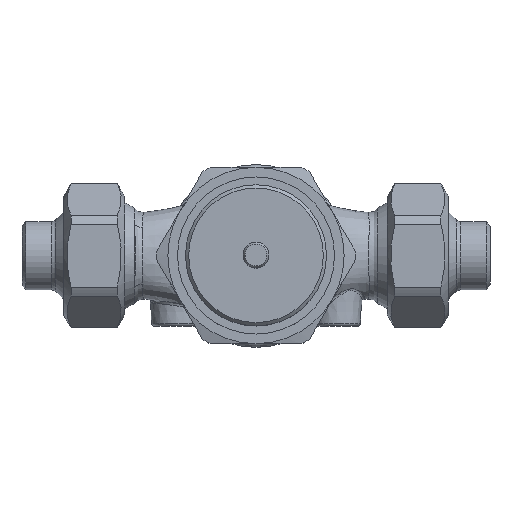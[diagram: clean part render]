
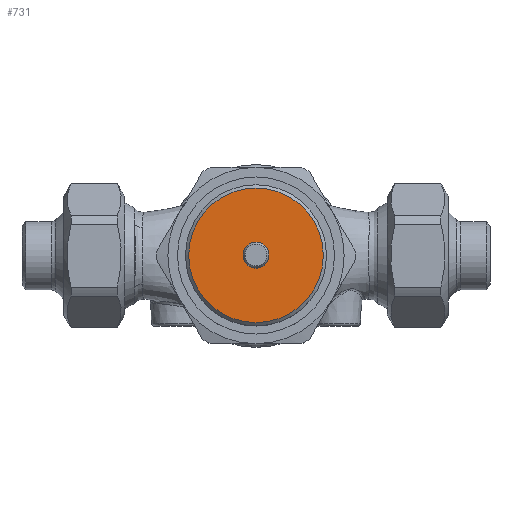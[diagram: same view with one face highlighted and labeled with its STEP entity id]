
A CAD part, top view. The second image highlights one B-rep face of the part: STEP entity #731.
In plain terms, the highlighted planar face has unit normal (0, 0, 1).
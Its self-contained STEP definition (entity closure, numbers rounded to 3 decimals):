
#419=PLANE('',#2838);
#536=FACE_BOUND('',#1103,.T.);
#537=FACE_BOUND('',#1104,.T.);
#731=ADVANCED_FACE('',(#536,#537),#419,.F.);
#1103=EDGE_LOOP('',(#1721));
#1104=EDGE_LOOP('',(#1722));
#1323=CIRCLE('',#2836,4.);
#1324=CIRCLE('',#2837,21.);
#1721=ORIENTED_EDGE('',*,*,#2431,.F.);
#1722=ORIENTED_EDGE('',*,*,#2432,.T.);
#2155=VERTEX_POINT('',#10088);
#2156=VERTEX_POINT('',#10090);
#2431=EDGE_CURVE('',#2155,#2155,#1323,.T.);
#2432=EDGE_CURVE('',#2156,#2156,#1324,.T.);
#2836=AXIS2_PLACEMENT_3D('',#10087,#3319,#3320);
#2837=AXIS2_PLACEMENT_3D('',#10089,#3321,#3322);
#2838=AXIS2_PLACEMENT_3D('',#10091,#3323,#3324);
#3319=DIRECTION('',(0.,0.,1.));
#3320=DIRECTION('',(-1.,0.,0.));
#3321=DIRECTION('',(0.,0.,1.));
#3322=DIRECTION('',(-1.,0.,0.));
#3323=DIRECTION('',(0.,0.,-1.));
#3324=DIRECTION('',(-1.,0.,0.));
#10087=CARTESIAN_POINT('',(0.,0.,80.6));
#10088=CARTESIAN_POINT('',(-4.,0.,80.6));
#10089=CARTESIAN_POINT('',(0.,0.,80.6));
#10090=CARTESIAN_POINT('',(-21.,0.,80.6));
#10091=CARTESIAN_POINT('',(0.,-11.25,80.6));
